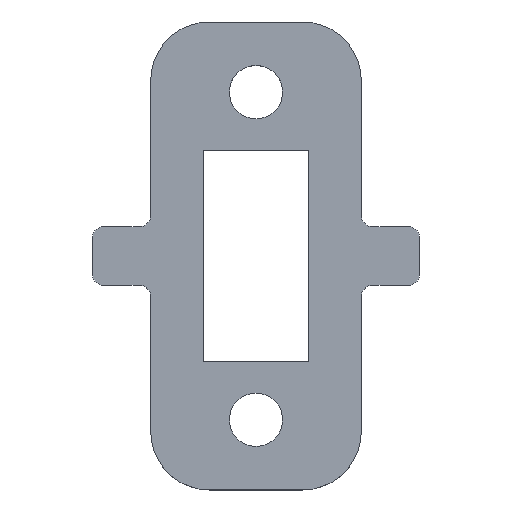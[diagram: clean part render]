
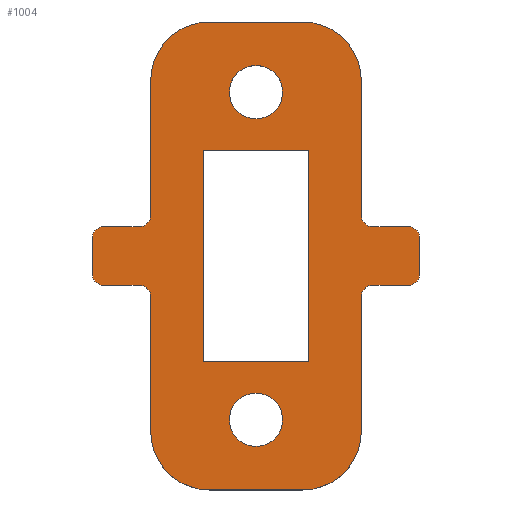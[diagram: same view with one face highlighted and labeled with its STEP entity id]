
A CAD part, top view. The second image highlights one B-rep face of the part: STEP entity #1004.
In plain terms, the highlighted planar face has unit normal (0, 0, 1).
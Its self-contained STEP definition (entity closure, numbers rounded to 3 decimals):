
#57=CARTESIAN_POINT('Axis2P3D Location',(0.,14.,3.5)) ;
#61=CARTESIAN_POINT('Vertex',(-2.275,14.,3.5)) ;
#63=CARTESIAN_POINT('Vertex',(2.275,14.,3.5)) ;
#92=CARTESIAN_POINT('Axis2P3D Location',(0.,14.,3.5)) ;
#114=CARTESIAN_POINT('Axis2P3D Location',(0.,-14.,3.5)) ;
#118=CARTESIAN_POINT('Vertex',(-2.275,-14.,3.5)) ;
#120=CARTESIAN_POINT('Vertex',(2.275,-14.,3.5)) ;
#149=CARTESIAN_POINT('Axis2P3D Location',(0.,-14.,3.5)) ;
#171=CARTESIAN_POINT('Line Origine',(4.5,0.,3.5)) ;
#175=CARTESIAN_POINT('Vertex',(4.5,-9.,3.5)) ;
#177=CARTESIAN_POINT('Vertex',(4.5,9.,3.5)) ;
#211=CARTESIAN_POINT('Line Origine',(0.,-9.,3.5)) ;
#215=CARTESIAN_POINT('Vertex',(-4.5,-9.,3.5)) ;
#242=CARTESIAN_POINT('Line Origine',(-4.5,0.,3.5)) ;
#246=CARTESIAN_POINT('Vertex',(-4.5,9.,3.5)) ;
#273=CARTESIAN_POINT('Line Origine',(0.,9.,3.5)) ;
#295=CARTESIAN_POINT('Axis2P3D Location',(4.,15.,3.5)) ;
#299=CARTESIAN_POINT('Vertex',(4.,20.,3.5)) ;
#301=CARTESIAN_POINT('Vertex',(9.,15.,3.5)) ;
#335=CARTESIAN_POINT('Axis2P3D Location',(-4.,-15.,3.5)) ;
#339=CARTESIAN_POINT('Vertex',(-4.,-20.,3.5)) ;
#341=CARTESIAN_POINT('Vertex',(-9.,-15.,3.5)) ;
#381=CARTESIAN_POINT('Vertex',(4.,-20.,3.5)) ;
#384=CARTESIAN_POINT('Line Origine',(0.,-20.,3.5)) ;
#406=CARTESIAN_POINT('Axis2P3D Location',(4.,-15.,3.5)) ;
#410=CARTESIAN_POINT('Vertex',(9.,-15.,3.5)) ;
#443=CARTESIAN_POINT('Vertex',(-4.,20.,3.5)) ;
#446=CARTESIAN_POINT('Line Origine',(0.,20.,3.5)) ;
#468=CARTESIAN_POINT('Axis2P3D Location',(-4.,15.,3.5)) ;
#472=CARTESIAN_POINT('Vertex',(-9.,15.,3.5)) ;
#499=CARTESIAN_POINT('Axis2P3D Location',(13.,1.5,3.5)) ;
#503=CARTESIAN_POINT('Vertex',(13.,2.5,3.5)) ;
#505=CARTESIAN_POINT('Vertex',(14.,1.5,3.5)) ;
#545=CARTESIAN_POINT('Vertex',(14.,-1.5,3.5)) ;
#553=CARTESIAN_POINT('Line Origine',(14.,0.,3.5)) ;
#570=CARTESIAN_POINT('Axis2P3D Location',(13.,-1.5,3.5)) ;
#574=CARTESIAN_POINT('Vertex',(13.,-2.5,3.5)) ;
#605=CARTESIAN_POINT('Vertex',(9.,3.5,3.5)) ;
#615=CARTESIAN_POINT('Line Origine',(9.,9.25,3.5)) ;
#636=CARTESIAN_POINT('Vertex',(10.,2.5,3.5)) ;
#641=CARTESIAN_POINT('Line Origine',(11.5,2.5,3.5)) ;
#663=CARTESIAN_POINT('Axis2P3D Location',(10.,3.5,3.5)) ;
#684=CARTESIAN_POINT('Vertex',(9.,-3.5,3.5)) ;
#689=CARTESIAN_POINT('Line Origine',(9.,-9.25,3.5)) ;
#715=CARTESIAN_POINT('Vertex',(10.,-2.5,3.5)) ;
#725=CARTESIAN_POINT('Line Origine',(11.5,-2.5,3.5)) ;
#742=CARTESIAN_POINT('Axis2P3D Location',(10.,-3.5,3.5)) ;
#764=CARTESIAN_POINT('Axis2P3D Location',(-13.,1.5,3.5)) ;
#768=CARTESIAN_POINT('Vertex',(-14.,1.5,3.5)) ;
#770=CARTESIAN_POINT('Vertex',(-13.,2.5,3.5)) ;
#810=CARTESIAN_POINT('Vertex',(-14.,-1.5,3.5)) ;
#813=CARTESIAN_POINT('Line Origine',(-14.,0.,3.5)) ;
#835=CARTESIAN_POINT('Axis2P3D Location',(-13.,-1.5,3.5)) ;
#839=CARTESIAN_POINT('Vertex',(-13.,-2.5,3.5)) ;
#870=CARTESIAN_POINT('Vertex',(-9.,3.5,3.5)) ;
#875=CARTESIAN_POINT('Line Origine',(-9.,9.25,3.5)) ;
#896=CARTESIAN_POINT('Vertex',(-10.,2.5,3.5)) ;
#906=CARTESIAN_POINT('Line Origine',(-11.5,2.5,3.5)) ;
#923=CARTESIAN_POINT('Axis2P3D Location',(-10.,3.5,3.5)) ;
#940=CARTESIAN_POINT('Axis2P3D Location',(0.,0.,3.5)) ;
#945=CARTESIAN_POINT('Axis2P3D Location',(-10.,-3.5,3.5)) ;
#949=CARTESIAN_POINT('Vertex',(-10.,-2.5,3.5)) ;
#951=CARTESIAN_POINT('Vertex',(-9.,-3.5,3.5)) ;
#954=CARTESIAN_POINT('Line Origine',(-9.,-9.25,3.5)) ;
#959=CARTESIAN_POINT('Line Origine',(-11.5,-2.5,3.5)) ;
#58=DIRECTION('Axis2P3D Direction',(0.,0.,1.)) ;
#93=DIRECTION('Axis2P3D Direction',(0.,0.,1.)) ;
#115=DIRECTION('Axis2P3D Direction',(0.,0.,1.)) ;
#150=DIRECTION('Axis2P3D Direction',(0.,0.,1.)) ;
#172=DIRECTION('Vector Direction',(0.,-1.,0.)) ;
#212=DIRECTION('Vector Direction',(-1.,0.,0.)) ;
#243=DIRECTION('Vector Direction',(0.,1.,0.)) ;
#274=DIRECTION('Vector Direction',(1.,0.,0.)) ;
#296=DIRECTION('Axis2P3D Direction',(0.,-0.,1.)) ;
#336=DIRECTION('Axis2P3D Direction',(0.,0.,1.)) ;
#385=DIRECTION('Vector Direction',(-1.,0.,0.)) ;
#407=DIRECTION('Axis2P3D Direction',(0.,0.,1.)) ;
#447=DIRECTION('Vector Direction',(1.,0.,0.)) ;
#469=DIRECTION('Axis2P3D Direction',(0.,0.,1.)) ;
#500=DIRECTION('Axis2P3D Direction',(0.,-0.,1.)) ;
#554=DIRECTION('Vector Direction',(0.,-1.,0.)) ;
#571=DIRECTION('Axis2P3D Direction',(0.,0.,1.)) ;
#616=DIRECTION('Vector Direction',(0.,-1.,0.)) ;
#642=DIRECTION('Vector Direction',(1.,0.,0.)) ;
#664=DIRECTION('Axis2P3D Direction',(0.,0.,1.)) ;
#690=DIRECTION('Vector Direction',(0.,-1.,0.)) ;
#726=DIRECTION('Vector Direction',(-1.,0.,0.)) ;
#743=DIRECTION('Axis2P3D Direction',(0.,-0.,1.)) ;
#765=DIRECTION('Axis2P3D Direction',(0.,0.,1.)) ;
#814=DIRECTION('Vector Direction',(0.,1.,0.)) ;
#836=DIRECTION('Axis2P3D Direction',(0.,0.,1.)) ;
#876=DIRECTION('Vector Direction',(0.,1.,0.)) ;
#907=DIRECTION('Vector Direction',(1.,0.,0.)) ;
#924=DIRECTION('Axis2P3D Direction',(0.,0.,1.)) ;
#941=DIRECTION('Axis2P3D Direction',(0.,0.,1.)) ;
#942=DIRECTION('Axis2P3D XDirection',(1.,0.,0.)) ;
#946=DIRECTION('Axis2P3D Direction',(0.,0.,1.)) ;
#955=DIRECTION('Vector Direction',(0.,1.,0.)) ;
#960=DIRECTION('Vector Direction',(-1.,0.,0.)) ;
#59=AXIS2_PLACEMENT_3D('Circle Axis2P3D',#57,#58,$) ;
#94=AXIS2_PLACEMENT_3D('Circle Axis2P3D',#92,#93,$) ;
#116=AXIS2_PLACEMENT_3D('Circle Axis2P3D',#114,#115,$) ;
#151=AXIS2_PLACEMENT_3D('Circle Axis2P3D',#149,#150,$) ;
#297=AXIS2_PLACEMENT_3D('Circle Axis2P3D',#295,#296,$) ;
#337=AXIS2_PLACEMENT_3D('Circle Axis2P3D',#335,#336,$) ;
#408=AXIS2_PLACEMENT_3D('Circle Axis2P3D',#406,#407,$) ;
#470=AXIS2_PLACEMENT_3D('Circle Axis2P3D',#468,#469,$) ;
#501=AXIS2_PLACEMENT_3D('Circle Axis2P3D',#499,#500,$) ;
#572=AXIS2_PLACEMENT_3D('Circle Axis2P3D',#570,#571,$) ;
#665=AXIS2_PLACEMENT_3D('Circle Axis2P3D',#663,#664,$) ;
#744=AXIS2_PLACEMENT_3D('Circle Axis2P3D',#742,#743,$) ;
#766=AXIS2_PLACEMENT_3D('Circle Axis2P3D',#764,#765,$) ;
#837=AXIS2_PLACEMENT_3D('Circle Axis2P3D',#835,#836,$) ;
#925=AXIS2_PLACEMENT_3D('Circle Axis2P3D',#923,#924,$) ;
#943=AXIS2_PLACEMENT_3D('Plane Axis2P3D',#940,#941,#942) ;
#947=AXIS2_PLACEMENT_3D('Circle Axis2P3D',#945,#946,$) ;
#965=ORIENTED_EDGE('',*,*,#953,.T.) ;
#966=ORIENTED_EDGE('',*,*,#958,.T.) ;
#967=ORIENTED_EDGE('',*,*,#343,.F.) ;
#968=ORIENTED_EDGE('',*,*,#388,.T.) ;
#969=ORIENTED_EDGE('',*,*,#412,.F.) ;
#970=ORIENTED_EDGE('',*,*,#693,.T.) ;
#971=ORIENTED_EDGE('',*,*,#746,.T.) ;
#972=ORIENTED_EDGE('',*,*,#729,.T.) ;
#973=ORIENTED_EDGE('',*,*,#576,.F.) ;
#974=ORIENTED_EDGE('',*,*,#557,.T.) ;
#975=ORIENTED_EDGE('',*,*,#507,.F.) ;
#976=ORIENTED_EDGE('',*,*,#645,.T.) ;
#977=ORIENTED_EDGE('',*,*,#667,.T.) ;
#978=ORIENTED_EDGE('',*,*,#619,.T.) ;
#979=ORIENTED_EDGE('',*,*,#303,.F.) ;
#980=ORIENTED_EDGE('',*,*,#450,.T.) ;
#981=ORIENTED_EDGE('',*,*,#474,.F.) ;
#982=ORIENTED_EDGE('',*,*,#879,.T.) ;
#983=ORIENTED_EDGE('',*,*,#927,.T.) ;
#984=ORIENTED_EDGE('',*,*,#910,.T.) ;
#985=ORIENTED_EDGE('',*,*,#772,.F.) ;
#986=ORIENTED_EDGE('',*,*,#817,.T.) ;
#987=ORIENTED_EDGE('',*,*,#841,.F.) ;
#988=ORIENTED_EDGE('',*,*,#963,.T.) ;
#991=ORIENTED_EDGE('',*,*,#65,.F.) ;
#992=ORIENTED_EDGE('',*,*,#96,.F.) ;
#995=ORIENTED_EDGE('',*,*,#122,.F.) ;
#996=ORIENTED_EDGE('',*,*,#153,.F.) ;
#999=ORIENTED_EDGE('',*,*,#179,.F.) ;
#1000=ORIENTED_EDGE('',*,*,#217,.F.) ;
#1001=ORIENTED_EDGE('',*,*,#248,.F.) ;
#1002=ORIENTED_EDGE('',*,*,#277,.F.) ;
#993=FACE_BOUND('',#990,.T.) ;
#997=FACE_BOUND('',#994,.T.) ;
#1003=FACE_BOUND('',#998,.T.) ;
#173=VECTOR('Line Direction',#172,1.) ;
#213=VECTOR('Line Direction',#212,1.) ;
#244=VECTOR('Line Direction',#243,1.) ;
#275=VECTOR('Line Direction',#274,1.) ;
#386=VECTOR('Line Direction',#385,1.) ;
#448=VECTOR('Line Direction',#447,1.) ;
#555=VECTOR('Line Direction',#554,1.) ;
#617=VECTOR('Line Direction',#616,1.) ;
#643=VECTOR('Line Direction',#642,1.) ;
#691=VECTOR('Line Direction',#690,1.) ;
#727=VECTOR('Line Direction',#726,1.) ;
#815=VECTOR('Line Direction',#814,1.) ;
#877=VECTOR('Line Direction',#876,1.) ;
#908=VECTOR('Line Direction',#907,1.) ;
#956=VECTOR('Line Direction',#955,1.) ;
#961=VECTOR('Line Direction',#960,1.) ;
#1004=ADVANCED_FACE('PartBody',(#989,#993,#997,#1003),#944,.T.) ;
#60=CIRCLE('generated circle',#59,2.275) ;
#95=CIRCLE('generated circle',#94,2.275) ;
#117=CIRCLE('generated circle',#116,2.275) ;
#152=CIRCLE('generated circle',#151,2.275) ;
#298=CIRCLE('generated circle',#297,5.) ;
#338=CIRCLE('generated circle',#337,5.) ;
#409=CIRCLE('generated circle',#408,5.) ;
#471=CIRCLE('generated circle',#470,5.) ;
#502=CIRCLE('generated circle',#501,1.) ;
#573=CIRCLE('generated circle',#572,1.) ;
#666=CIRCLE('generated circle',#665,1.) ;
#745=CIRCLE('generated circle',#744,1.) ;
#767=CIRCLE('generated circle',#766,1.) ;
#838=CIRCLE('generated circle',#837,1.) ;
#926=CIRCLE('generated circle',#925,1.) ;
#948=CIRCLE('generated circle',#947,1.) ;
#65=EDGE_CURVE('',#62,#64,#60,.T.) ;
#96=EDGE_CURVE('',#64,#62,#95,.T.) ;
#122=EDGE_CURVE('',#119,#121,#117,.T.) ;
#153=EDGE_CURVE('',#121,#119,#152,.T.) ;
#179=EDGE_CURVE('',#176,#178,#174,.F.) ;
#217=EDGE_CURVE('',#216,#176,#214,.F.) ;
#248=EDGE_CURVE('',#247,#216,#245,.F.) ;
#277=EDGE_CURVE('',#178,#247,#276,.F.) ;
#303=EDGE_CURVE('',#300,#302,#298,.F.) ;
#343=EDGE_CURVE('',#340,#342,#338,.F.) ;
#388=EDGE_CURVE('',#340,#382,#387,.F.) ;
#412=EDGE_CURVE('',#411,#382,#409,.F.) ;
#450=EDGE_CURVE('',#300,#444,#449,.F.) ;
#474=EDGE_CURVE('',#473,#444,#471,.F.) ;
#507=EDGE_CURVE('',#504,#506,#502,.F.) ;
#557=EDGE_CURVE('',#546,#506,#556,.F.) ;
#576=EDGE_CURVE('',#546,#575,#573,.F.) ;
#619=EDGE_CURVE('',#606,#302,#618,.F.) ;
#645=EDGE_CURVE('',#504,#637,#644,.F.) ;
#667=EDGE_CURVE('',#637,#606,#666,.F.) ;
#693=EDGE_CURVE('',#411,#685,#692,.F.) ;
#729=EDGE_CURVE('',#716,#575,#728,.F.) ;
#746=EDGE_CURVE('',#685,#716,#745,.F.) ;
#772=EDGE_CURVE('',#769,#771,#767,.F.) ;
#817=EDGE_CURVE('',#769,#811,#816,.F.) ;
#841=EDGE_CURVE('',#840,#811,#838,.F.) ;
#879=EDGE_CURVE('',#473,#871,#878,.F.) ;
#910=EDGE_CURVE('',#897,#771,#909,.F.) ;
#927=EDGE_CURVE('',#871,#897,#926,.F.) ;
#953=EDGE_CURVE('',#950,#952,#948,.F.) ;
#958=EDGE_CURVE('',#952,#342,#957,.F.) ;
#963=EDGE_CURVE('',#840,#950,#962,.F.) ;
#964=EDGE_LOOP('',(#965,#966,#967,#968,#969,#970,#971,#972,#973,#974,#975,#976,#977,#978,#979,#980,#981,#982,#983,#984,#985,#986,#987,#988)) ;
#990=EDGE_LOOP('',(#991,#992)) ;
#994=EDGE_LOOP('',(#995,#996)) ;
#998=EDGE_LOOP('',(#999,#1000,#1001,#1002)) ;
#989=FACE_OUTER_BOUND('',#964,.T.) ;
#174=LINE('Line',#171,#173) ;
#214=LINE('Line',#211,#213) ;
#245=LINE('Line',#242,#244) ;
#276=LINE('Line',#273,#275) ;
#387=LINE('Line',#384,#386) ;
#449=LINE('Line',#446,#448) ;
#556=LINE('Line',#553,#555) ;
#618=LINE('Line',#615,#617) ;
#644=LINE('Line',#641,#643) ;
#692=LINE('Line',#689,#691) ;
#728=LINE('Line',#725,#727) ;
#816=LINE('Line',#813,#815) ;
#878=LINE('Line',#875,#877) ;
#909=LINE('Line',#906,#908) ;
#957=LINE('Line',#954,#956) ;
#962=LINE('Line',#959,#961) ;
#944=PLANE('',#943) ;
#62=VERTEX_POINT('',#61) ;
#64=VERTEX_POINT('',#63) ;
#119=VERTEX_POINT('',#118) ;
#121=VERTEX_POINT('',#120) ;
#176=VERTEX_POINT('',#175) ;
#178=VERTEX_POINT('',#177) ;
#216=VERTEX_POINT('',#215) ;
#247=VERTEX_POINT('',#246) ;
#300=VERTEX_POINT('',#299) ;
#302=VERTEX_POINT('',#301) ;
#340=VERTEX_POINT('',#339) ;
#342=VERTEX_POINT('',#341) ;
#382=VERTEX_POINT('',#381) ;
#411=VERTEX_POINT('',#410) ;
#444=VERTEX_POINT('',#443) ;
#473=VERTEX_POINT('',#472) ;
#504=VERTEX_POINT('',#503) ;
#506=VERTEX_POINT('',#505) ;
#546=VERTEX_POINT('',#545) ;
#575=VERTEX_POINT('',#574) ;
#606=VERTEX_POINT('',#605) ;
#637=VERTEX_POINT('',#636) ;
#685=VERTEX_POINT('',#684) ;
#716=VERTEX_POINT('',#715) ;
#769=VERTEX_POINT('',#768) ;
#771=VERTEX_POINT('',#770) ;
#811=VERTEX_POINT('',#810) ;
#840=VERTEX_POINT('',#839) ;
#871=VERTEX_POINT('',#870) ;
#897=VERTEX_POINT('',#896) ;
#950=VERTEX_POINT('',#949) ;
#952=VERTEX_POINT('',#951) ;
